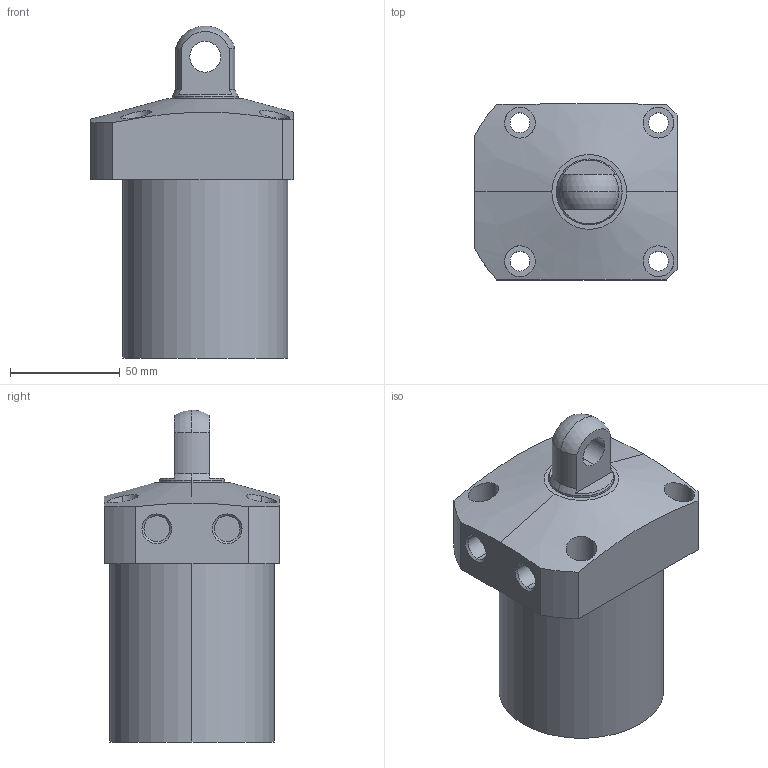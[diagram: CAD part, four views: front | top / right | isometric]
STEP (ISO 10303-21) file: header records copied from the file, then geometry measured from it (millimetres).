
FILE_DESCRIPTION (( 'STEP AP203' ), '1' );
FILE_NAME ('CLL-075CP-65.STEP', '2019-12-20T08:32:56', ( '' ), ( '' ), 'SwSTEP 2.0', 'SolidWorks 2015', '' );
FILE_SCHEMA (( 'CONFIG_CONTROL_DESIGN' ));
Length unit declared in the file: millimetre
Products named in the file (1): CLL-075CP-65
Bounding box: 92 x 80 x 151 mm (x, y, z)
Volume: 587316.8 mm3; surface area: 50354.8 mm2
Topology: 1 solids, 1 shells, 66 faces, 155 edges, 101 vertices
Faces by surface type: cylinder 35, plane 21, cone 8, sphere 2
Entity records: 2408 total; most frequent: CARTESIAN_POINT 755, DIRECTION 345, ORIENTED_EDGE 310, EDGE_CURVE 155, AXIS2_PLACEMENT_3D 143, VERTEX_POINT 101, EDGE_LOOP 86, CIRCLE 76
